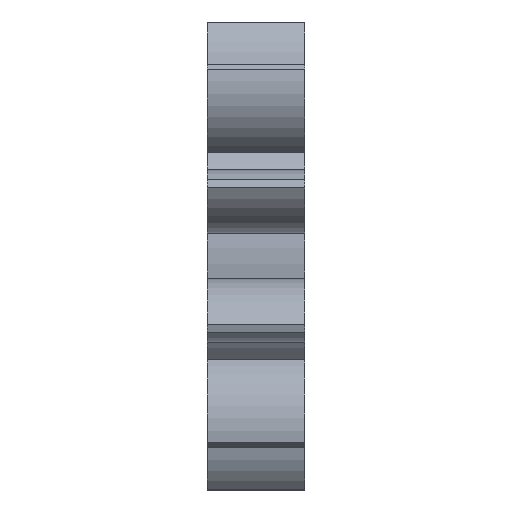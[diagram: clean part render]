
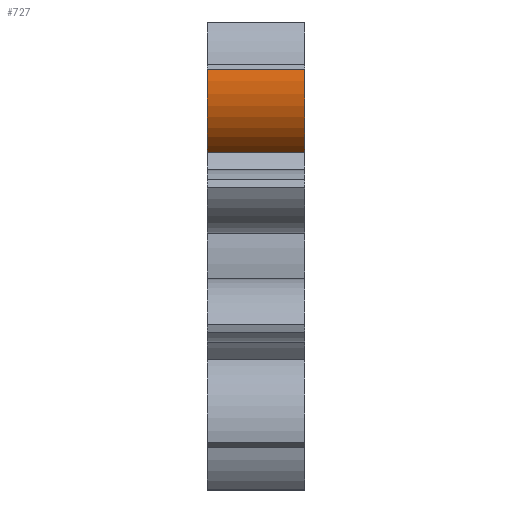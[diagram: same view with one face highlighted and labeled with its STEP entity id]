
A CAD part, front view. The second image highlights one B-rep face of the part: STEP entity #727.
In plain terms, the highlighted cylindrical face has radius 5.08 mm (diameter 10.16 mm), a partial arc.
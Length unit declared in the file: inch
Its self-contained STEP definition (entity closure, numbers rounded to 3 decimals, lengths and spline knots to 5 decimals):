
#63 = CARTESIAN_POINT ( 'NONE',  ( 0., -0.16571, 0.43966 ) ) ;
#73 = DIRECTION ( 'NONE',  ( 0., 0.588, 0.809 ) ) ;
#162 = EDGE_CURVE ( 'NONE', #1079, #327, #980, .T. ) ;
#203 = CARTESIAN_POINT ( 'NONE',  ( 0.25, -0.16571, 0.43966 ) ) ;
#261 = EDGE_CURVE ( 'NONE', #1462, #1154, #1125, .T. ) ;
#327 = VERTEX_POINT ( 'NONE', #1168 ) ;
#416 = EDGE_CURVE ( 'NONE', #327, #1154, #1385, .T. ) ;
#418 = DIRECTION ( 'NONE',  ( -1., 0., 0. ) ) ;
#470 = ORIENTED_EDGE ( 'NONE', *, *, #261, .T. ) ;
#505 = AXIS2_PLACEMENT_3D ( 'NONE', #203, #1167, #73 ) ;
#514 = VECTOR ( 'NONE', #418, 39.37008 ) ;
#522 = DIRECTION ( 'NONE',  ( -1., 0., 0. ) ) ;
#613 = AXIS2_PLACEMENT_3D ( 'NONE', #63, #619, #1187 ) ;
#619 = DIRECTION ( 'NONE',  ( -1., 0., 0. ) ) ;
#653 = DIRECTION ( 'NONE',  ( 0., 0., 1. ) ) ;
#727 = ADVANCED_FACE ( 'NONE', ( #788 ), #902, .T. ) ;
#761 = CARTESIAN_POINT ( 'NONE',  ( 0.25, -0.16571, 0.43966 ) ) ;
#788 = FACE_OUTER_BOUND ( 'NONE', #1623, .T. ) ;
#829 = CARTESIAN_POINT ( 'NONE',  ( 0.25, -0.2645, 0.26576 ) ) ;
#902 = CYLINDRICAL_SURFACE ( 'NONE', #1381, 0.2 ) ;
#915 = ORIENTED_EDGE ( 'NONE', *, *, #1494, .T. ) ;
#966 = CIRCLE ( 'NONE', #505, 0.2 ) ;
#980 = LINE ( 'NONE', #1531, #514 ) ;
#1079 = VERTEX_POINT ( 'NONE', #829 ) ;
#1125 = LINE ( 'NONE', #1144, #1475 ) ;
#1144 = CARTESIAN_POINT ( 'NONE',  ( 0.125, -0.36188, 0.47858 ) ) ;
#1154 = VERTEX_POINT ( 'NONE', #1630 ) ;
#1167 = DIRECTION ( 'NONE',  ( -1., 0., 0. ) ) ;
#1168 = CARTESIAN_POINT ( 'NONE',  ( 0., -0.2645, 0.26576 ) ) ;
#1187 = DIRECTION ( 'NONE',  ( 0., 0.588, 0.809 ) ) ;
#1269 = DIRECTION ( 'NONE',  ( -1., 0., 0. ) ) ;
#1381 = AXIS2_PLACEMENT_3D ( 'NONE', #761, #522, #653 ) ;
#1385 = CIRCLE ( 'NONE', #613, 0.2 ) ;
#1411 = ORIENTED_EDGE ( 'NONE', *, *, #162, .F. ) ;
#1443 = ORIENTED_EDGE ( 'NONE', *, *, #416, .F. ) ;
#1462 = VERTEX_POINT ( 'NONE', #1575 ) ;
#1475 = VECTOR ( 'NONE', #1269, 39.37008 ) ;
#1494 = EDGE_CURVE ( 'NONE', #1079, #1462, #966, .T. ) ;
#1531 = CARTESIAN_POINT ( 'NONE',  ( 0.25, -0.2645, 0.26576 ) ) ;
#1575 = CARTESIAN_POINT ( 'NONE',  ( 0.25, -0.36188, 0.47858 ) ) ;
#1623 = EDGE_LOOP ( 'NONE', ( #470, #1443, #1411, #915 ) ) ;
#1630 = CARTESIAN_POINT ( 'NONE',  ( 0., -0.36188, 0.47858 ) ) ;
